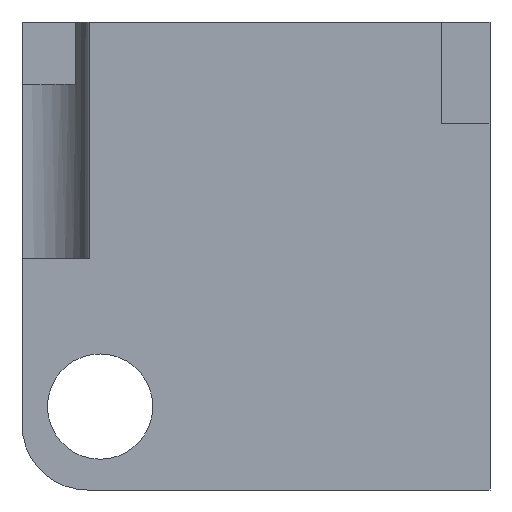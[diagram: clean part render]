
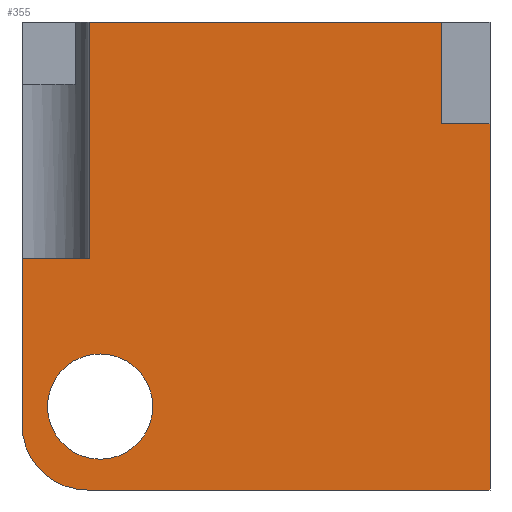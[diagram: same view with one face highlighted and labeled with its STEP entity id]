
A CAD part, left-side view. The second image highlights one B-rep face of the part: STEP entity #355.
In plain terms, the highlighted planar face has unit normal (-1, 0, 0).
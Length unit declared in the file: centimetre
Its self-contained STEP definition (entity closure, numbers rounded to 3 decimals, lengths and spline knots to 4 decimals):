
#3 = DIRECTION ( 'NONE',  ( 0., 0., -1. ) ) ;
#16 = DIRECTION ( 'NONE',  ( 0., -1., 0. ) ) ;
#18 = LINE ( 'NONE', #273, #425 ) ;
#19 = EDGE_LOOP ( 'NONE', ( #500, #709, #638, #463, #569, #640, #186, #631, #576 ) ) ;
#21 = EDGE_CURVE ( 'NONE', #799, #495, #131, .T. ) ;
#23 = DIRECTION ( 'NONE',  ( 0., 0., 1. ) ) ;
#42 = LINE ( 'NONE', #735, #129 ) ;
#47 = DIRECTION ( 'NONE',  ( 0., -1., 0. ) ) ;
#68 = VECTOR ( 'NONE', #266, 100. ) ;
#71 = LINE ( 'NONE', #824, #746 ) ;
#78 = EDGE_LOOP ( 'NONE', ( #504, #767 ) ) ;
#111 = LINE ( 'NONE', #739, #233 ) ;
#128 = FACE_OUTER_BOUND ( 'NONE', #19, .T. ) ;
#129 = VECTOR ( 'NONE', #314, 100. ) ;
#131 = CIRCLE ( 'NONE', #422, 112.495 ) ;
#153 = EDGE_CURVE ( 'NONE', #495, #799, #688, .T. ) ;
#161 = CARTESIAN_POINT ( 'NONE',  ( 0., 103.2584, 1000. ) ) ;
#167 = CARTESIAN_POINT ( 'NONE',  ( 0., 1000., 494.4335 ) ) ;
#177 = VECTOR ( 'NONE', #16, 100. ) ;
#186 = ORIENTED_EDGE ( 'NONE', *, *, #286, .F. ) ;
#188 = EDGE_CURVE ( 'NONE', #876, #693, #672, .T. ) ;
#197 = CARTESIAN_POINT ( 'NONE',  ( 0., 833.1445, 65.7592 ) ) ;
#205 = CARTESIAN_POINT ( 'NONE',  ( 0., 1000., 139.6596 ) ) ;
#233 = VECTOR ( 'NONE', #47, 100. ) ;
#243 = CARTESIAN_POINT ( 'NONE',  ( 0., 0., 782.7474 ) ) ;
#244 = EDGE_CURVE ( 'NONE', #658, #734, #548, .T. ) ;
#266 = DIRECTION ( 'NONE',  ( 0., -1., 0. ) ) ;
#273 = CARTESIAN_POINT ( 'NONE',  ( 0., 856.6369, 494.4335 ) ) ;
#277 = AXIS2_PLACEMENT_3D ( 'NONE', #320, #341, #811 ) ;
#286 = EDGE_CURVE ( 'NONE', #659, #665, #71, .T. ) ;
#293 = AXIS2_PLACEMENT_3D ( 'NONE', #363, #559, #3 ) ;
#297 = VERTEX_POINT ( 'NONE', #624 ) ;
#314 = DIRECTION ( 'NONE',  ( 0., 0., -1. ) ) ;
#320 = CARTESIAN_POINT ( 'NONE',  ( 0., 833.1445, 178.2541 ) ) ;
#336 = CARTESIAN_POINT ( 'NONE',  ( 0., 103.2584, 782.7474 ) ) ;
#337 = DIRECTION ( 'NONE',  ( 0., 0., -1. ) ) ;
#341 = DIRECTION ( 'NONE',  ( -1., 0., 0. ) ) ;
#355 = ADVANCED_FACE ( 'NONE', ( #556, #128 ), #410, .F. ) ;
#361 = VERTEX_POINT ( 'NONE', #888 ) ;
#363 = CARTESIAN_POINT ( 'NONE',  ( 0., 860.3404, 139.6596 ) ) ;
#376 = CARTESIAN_POINT ( 'NONE',  ( 0., 0., 782.7474 ) ) ;
#385 = CIRCLE ( 'NONE', #293, 139.6596 ) ;
#391 = EDGE_CURVE ( 'NONE', #361, #734, #18, .T. ) ;
#403 = EDGE_CURVE ( 'NONE', #297, #665, #626, .T. ) ;
#410 = PLANE ( 'NONE',  #577 ) ;
#411 = DIRECTION ( 'NONE',  ( 0., 0., -1. ) ) ;
#422 = AXIS2_PLACEMENT_3D ( 'NONE', #600, #782, #23 ) ;
#425 = VECTOR ( 'NONE', #411, 100. ) ;
#432 = EDGE_CURVE ( 'NONE', #763, #297, #385, .T. ) ;
#463 = ORIENTED_EDGE ( 'NONE', *, *, #641, .T. ) ;
#465 = CARTESIAN_POINT ( 'NONE',  ( 0., 1000., 494.4335 ) ) ;
#472 = CARTESIAN_POINT ( 'NONE',  ( 0., 103.2584, 782.7474 ) ) ;
#480 = CARTESIAN_POINT ( 'NONE',  ( 0., 856.6369, 494.4335 ) ) ;
#481 = DIRECTION ( 'NONE',  ( 0., 0., -1. ) ) ;
#486 = CARTESIAN_POINT ( 'NONE',  ( 0., 833.1445, 290.7491 ) ) ;
#491 = VECTOR ( 'NONE', #337, 100. ) ;
#495 = VERTEX_POINT ( 'NONE', #486 ) ;
#500 = ORIENTED_EDGE ( 'NONE', *, *, #618, .F. ) ;
#504 = ORIENTED_EDGE ( 'NONE', *, *, #153, .F. ) ;
#515 = LINE ( 'NONE', #376, #622 ) ;
#518 = CARTESIAN_POINT ( 'NONE',  ( 0., 0., 0. ) ) ;
#548 = LINE ( 'NONE', #465, #68 ) ;
#550 = CARTESIAN_POINT ( 'NONE',  ( 0., 1000., 1000. ) ) ;
#556 = FACE_BOUND ( 'NONE', #78, .T. ) ;
#559 = DIRECTION ( 'NONE',  ( -1., 0., 0. ) ) ;
#569 = ORIENTED_EDGE ( 'NONE', *, *, #432, .T. ) ;
#576 = ORIENTED_EDGE ( 'NONE', *, *, #188, .F. ) ;
#577 = AXIS2_PLACEMENT_3D ( 'NONE', #550, #756, #481 ) ;
#600 = CARTESIAN_POINT ( 'NONE',  ( 0., 833.1445, 178.2541 ) ) ;
#604 = EDGE_CURVE ( 'NONE', #693, #659, #515, .T. ) ;
#618 = EDGE_CURVE ( 'NONE', #361, #876, #111, .T. ) ;
#622 = VECTOR ( 'NONE', #801, 100. ) ;
#624 = CARTESIAN_POINT ( 'NONE',  ( 0., 860.3404, 0. ) ) ;
#626 = LINE ( 'NONE', #639, #177 ) ;
#631 = ORIENTED_EDGE ( 'NONE', *, *, #604, .F. ) ;
#638 = ORIENTED_EDGE ( 'NONE', *, *, #244, .F. ) ;
#639 = CARTESIAN_POINT ( 'NONE',  ( 0., 1000., 0. ) ) ;
#640 = ORIENTED_EDGE ( 'NONE', *, *, #403, .T. ) ;
#641 = EDGE_CURVE ( 'NONE', #658, #763, #42, .T. ) ;
#658 = VERTEX_POINT ( 'NONE', #167 ) ;
#659 = VERTEX_POINT ( 'NONE', #243 ) ;
#665 = VERTEX_POINT ( 'NONE', #518 ) ;
#672 = LINE ( 'NONE', #472, #491 ) ;
#688 = CIRCLE ( 'NONE', #277, 112.495 ) ;
#693 = VERTEX_POINT ( 'NONE', #336 ) ;
#709 = ORIENTED_EDGE ( 'NONE', *, *, #391, .T. ) ;
#734 = VERTEX_POINT ( 'NONE', #480 ) ;
#735 = CARTESIAN_POINT ( 'NONE',  ( 0., 1000., 1000. ) ) ;
#739 = CARTESIAN_POINT ( 'NONE',  ( 0., 1000., 1000. ) ) ;
#746 = VECTOR ( 'NONE', #752, 100. ) ;
#752 = DIRECTION ( 'NONE',  ( 0., 0., -1. ) ) ;
#756 = DIRECTION ( 'NONE',  ( 1., 0., 0. ) ) ;
#763 = VERTEX_POINT ( 'NONE', #205 ) ;
#767 = ORIENTED_EDGE ( 'NONE', *, *, #21, .F. ) ;
#782 = DIRECTION ( 'NONE',  ( -1., 0., 0. ) ) ;
#799 = VERTEX_POINT ( 'NONE', #197 ) ;
#801 = DIRECTION ( 'NONE',  ( 0., -1., 0. ) ) ;
#811 = DIRECTION ( 'NONE',  ( 0., 0., 1. ) ) ;
#824 = CARTESIAN_POINT ( 'NONE',  ( 0., 0., 1000. ) ) ;
#876 = VERTEX_POINT ( 'NONE', #161 ) ;
#888 = CARTESIAN_POINT ( 'NONE',  ( 0., 856.6369, 1000. ) ) ;
